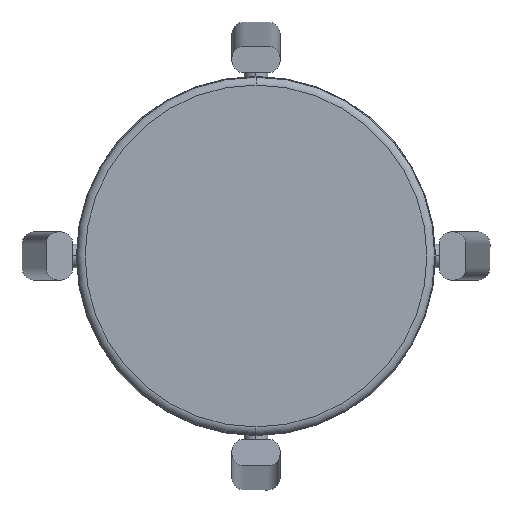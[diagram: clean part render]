
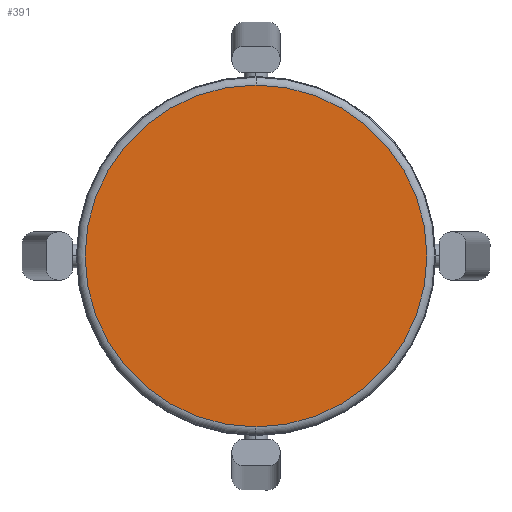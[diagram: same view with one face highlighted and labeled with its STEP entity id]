
A CAD part, front view. The second image highlights one B-rep face of the part: STEP entity #391.
In plain terms, the highlighted planar face has unit normal (0, -1, 0) as drawn and (0, 1, 0) by its records, which use the part's own axes.
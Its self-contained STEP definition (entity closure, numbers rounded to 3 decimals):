
#391 = ADVANCED_FACE ( 'NONE', ( #8231 ), #10143, .T. ) ;
#833 = AXIS2_PLACEMENT_3D ( 'NONE', #11997, #11198, #3726 ) ;
#1338 = DIRECTION ( 'NONE',  ( 0., 1., 0. ) ) ;
#1957 = CIRCLE ( 'NONE', #3766, 159.5 ) ;
#2508 = CARTESIAN_POINT ( 'NONE',  ( 0., 50., 0. ) ) ;
#3726 = DIRECTION ( 'NONE',  ( 0., 0., 1. ) ) ;
#3766 = AXIS2_PLACEMENT_3D ( 'NONE', #11496, #1338, #9821 ) ;
#3867 = EDGE_CURVE ( 'NONE', #6562, #4638, #12060, .T. ) ;
#3974 = AXIS2_PLACEMENT_3D ( 'NONE', #2508, #7960, #6183 ) ;
#4501 = EDGE_LOOP ( 'NONE', ( #5131, #7151 ) ) ;
#4638 = VERTEX_POINT ( 'NONE', #10592 ) ;
#5131 = ORIENTED_EDGE ( 'NONE', *, *, #11567, .T. ) ;
#6183 = DIRECTION ( 'NONE',  ( 0., 0., 1. ) ) ;
#6562 = VERTEX_POINT ( 'NONE', #10880 ) ;
#7151 = ORIENTED_EDGE ( 'NONE', *, *, #3867, .T. ) ;
#7960 = DIRECTION ( 'NONE',  ( 0., 1., 0. ) ) ;
#8231 = FACE_OUTER_BOUND ( 'NONE', #4501, .T. ) ;
#9821 = DIRECTION ( 'NONE',  ( 0., 0., 1. ) ) ;
#10143 = PLANE ( 'NONE',  #833 ) ;
#10592 = CARTESIAN_POINT ( 'NONE',  ( 0., 50., 159.5 ) ) ;
#10880 = CARTESIAN_POINT ( 'NONE',  ( 0., 50., -159.5 ) ) ;
#11198 = DIRECTION ( 'NONE',  ( 0., 1., 0. ) ) ;
#11496 = CARTESIAN_POINT ( 'NONE',  ( 0., 50., 0. ) ) ;
#11567 = EDGE_CURVE ( 'NONE', #4638, #6562, #1957, .T. ) ;
#11997 = CARTESIAN_POINT ( 'NONE',  ( 0., 50., 0. ) ) ;
#12060 = CIRCLE ( 'NONE', #3974, 159.5 ) ;
